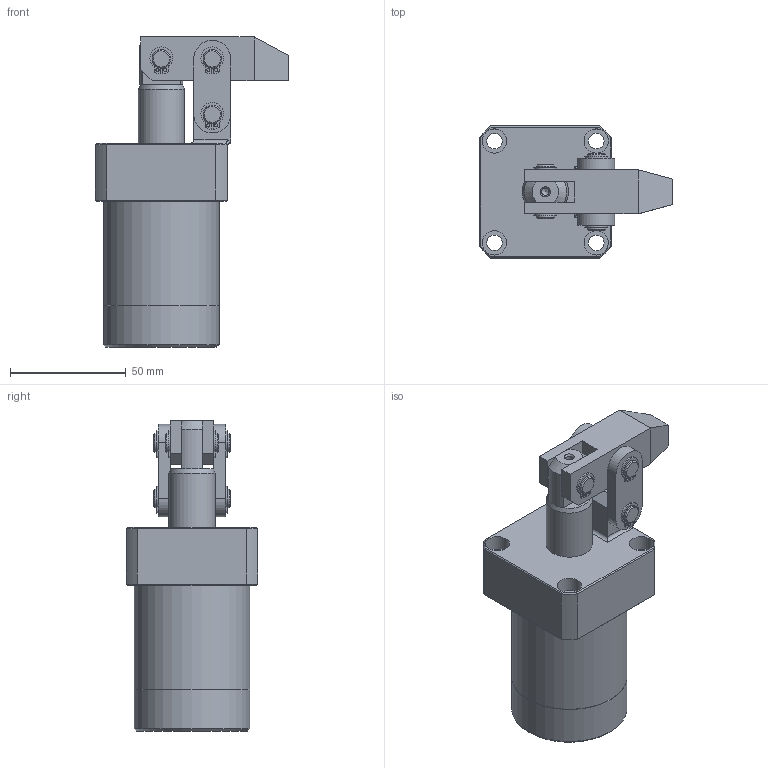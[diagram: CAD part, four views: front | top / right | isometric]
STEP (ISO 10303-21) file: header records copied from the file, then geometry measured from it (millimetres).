
FILE_DESCRIPTION(/* description */ ('Unknown'),/* implementation_level */ '2;1');
FILE_NAME(/* name */ 'HLC-FA32-A',/* time_stamp */ '2022-11-23T02:34:59+08:00',/* author */ ('Unknown'),/* organization */ ('Unknown'),/* preprocessor_version */ 'ST-DEVELOPER v16.7',/* originating_system */ 'DEX',/* authorisation */ $);
FILE_SCHEMA (('AUTOMOTIVE_DESIGN {1 0 10303 214 3 1 1}'));
Length unit declared in the file: millimetre
Products named in the file (8): HLC-FA32-A; HLC-FA32-CYLINDER; HLC-3202-FA-AXLE CENTRE; HLC-32-A; HLC-32-乖'敊; HLC-32-PINµu-; HLC-32-PINªø-; HLC-32-C扣7
Assembly tree (14 placements, depth 2):
  HLC-FA32-A
    HLC-FA32-CYLINDER
    HLC-3202-FA-AXLE CENTRE
    HLC-32-A
    HLC-32-乖'敊  x2
    HLC-32-PINµu-
    HLC-32-PINªø-  x2
    HLC-32-C扣7  x6
Bounding box: 83.5 x 57 x 134 mm (x, y, z)
Volume: 217644.1 mm3; surface area: 51957.8 mm2
Topology: 14 solids, 14 shells, 264 faces, 617 edges, 403 vertices
Faces by surface type: cylinder 121, plane 115, cone 26, torus 2
Full cylindrical faces by diameter (mm): 1.4 x12, 3.2 x1, 6.8 x4, 7.5 x6, 8 x18, 10.5 x4, 12.301 x2, 20 x2, 31.5 x1, 32 x1, 50 x2
Entity records: 4973 total; most frequent: CARTESIAN_POINT 772, DIRECTION 767, ORIENTED_EDGE 592, AXIS2_PLACEMENT_3D 319, EDGE_CURVE 296, FACE_BOUND 260, EDGE_LOOP 259, VERTEX_POINT 218
